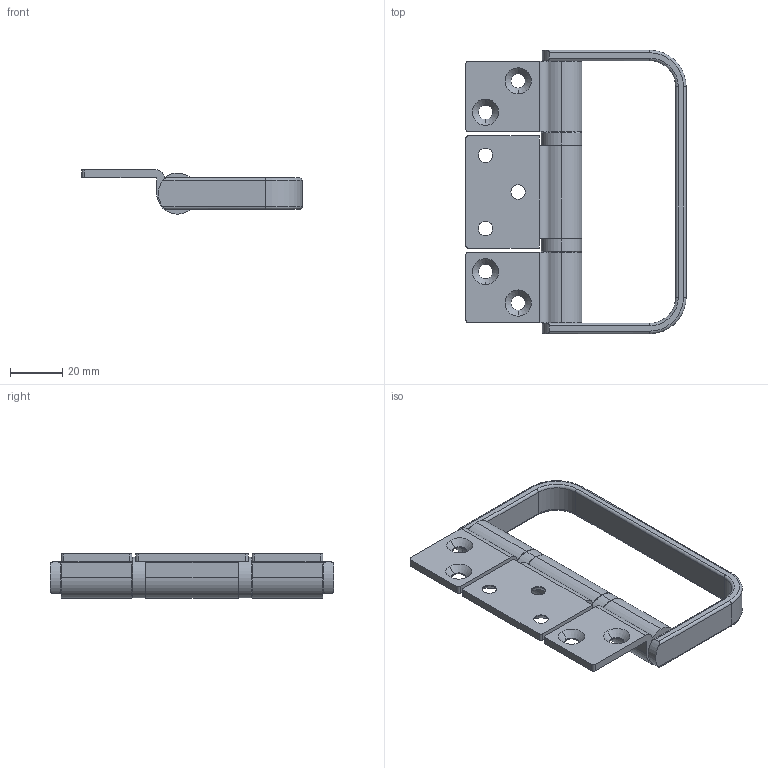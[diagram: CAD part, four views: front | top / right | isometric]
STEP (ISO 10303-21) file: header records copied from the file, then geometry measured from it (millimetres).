
FILE_DESCRIPTION (( 'STEP AP214' ), '1' );
FILE_NAME ('E3 Half Offset Hinge with Handle - Closed.STEP', '2024-06-25T05:44:33', ( '' ), ( '' ), 'SwSTEP 2.0', 'SolidWorks 2023', '' );
FILE_SCHEMA (( 'AUTOMOTIVE_DESIGN' ));
Length unit declared in the file: millimetre
Products named in the file (5): E3 Half Offset Outer Flap B^E3 Half Offset Hinge with Handle; E3 Half Offset Outer Flap A^E3 Half Offset Hinge with Handle; E3 Half Offset Middle Flap^E3 Half Offset Hinge with Handle; E3 Hinge Pin and handle^E3 Half Offset Hinge with Handle; E3 Half Offset Hinge with Handle - Closed
Assembly tree (4 placements, depth 2):
  E3 Half Offset Hinge with Handle - Closed
    E3 Hinge Pin and handle^E3 Half Offset Hinge with Handle
    E3 Half Offset Outer Flap A^E3 Half Offset Hinge with Handle
    E3 Half Offset Outer Flap B^E3 Half Offset Hinge with Handle
    E3 Half Offset Middle Flap^E3 Half Offset Hinge with Handle
Bounding box: 84.25 x 108.5 x 16.95 mm (x, y, z)
Volume: 36872.2 mm3; surface area: 24096.9 mm2
Topology: 4 solids, 4 shells, 133 faces, 339 edges, 218 vertices
Faces by surface type: cylinder 69, plane 34, cone 22, torus 8
Entity records: 4329 total; most frequent: DIRECTION 785, CARTESIAN_POINT 769, ORIENTED_EDGE 678, EDGE_CURVE 339, AXIS2_PLACEMENT_3D 314, VERTEX_POINT 218, CIRCLE 174, EDGE_LOOP 159
